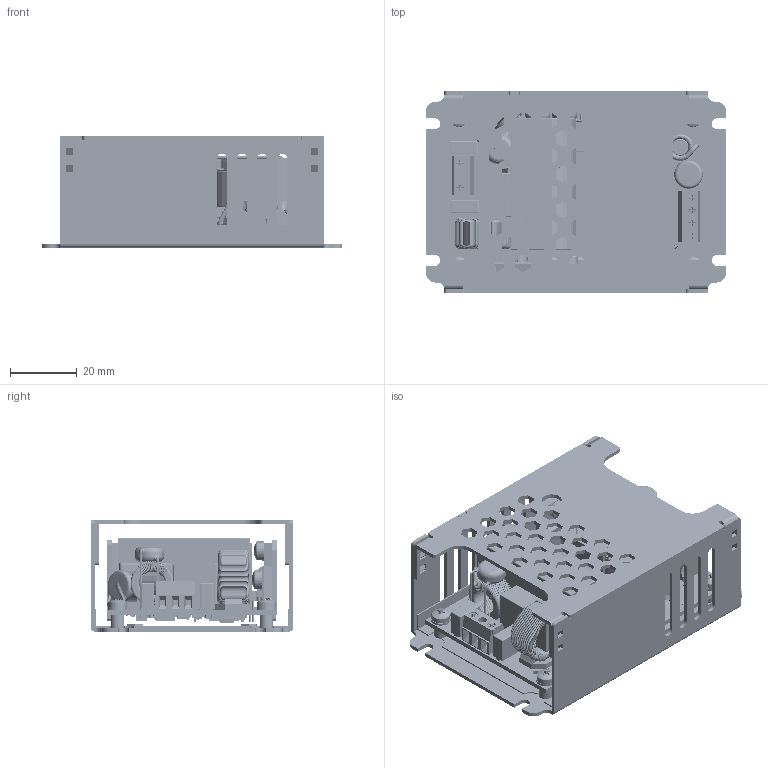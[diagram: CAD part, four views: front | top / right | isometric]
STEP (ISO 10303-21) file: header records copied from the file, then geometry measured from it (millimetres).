
FILE_DESCRIPTION (( 'STEP AP214' ), '1' );
FILE_NAME ('TPP 40(Single).STEP', '2020-07-20T01:51:59', ( 'user' ), ( '' ), 'SwSTEP 2.0', 'SolidWorks 2016', '' );
FILE_SCHEMA (( 'AUTOMOTIVE_DESIGN' ));
Length unit declared in the file: millimetre
Products named in the file (2): TPP 40(Single)
Bounding box: 89.74 x 60.45 x 33.27 mm (x, y, z)
Volume: 59282.4 mm3; surface area: 87612.8 mm2
Topology: 262 solids, 377 shells, 10429 faces, 24916 edges, 15127 vertices
Faces by surface type: plane 4299, cylinder 3465, torus 2249, bspline 264, sphere 82, cone 70
Full cylindrical faces by diameter (mm): 0.08 x1, 0.1 x15, 0.136 x1, 0.2 x4, 0.254 x2, 0.3 x4, 0.4 x4, 0.406 x64, 0.432 x2, 0.5 x5, 0.6 x37, 0.61 x8, 0.711 x4, 0.762 x8, 0.8 x7, 0.813 x40, 0.914 x8, 1.016 x34, 1.118 x6, 1.219 x4, 1.321 x11, 1.5 x4, 1.524 x32, 1.6 x6, 1.676 x12, 1.778 x42, 1.88 x2, 2.032 x18, 2.235 x8, 2.5 x16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
Entity records: 448170 total; most frequent: CARTESIAN_POINT 96981, ORIENTED_EDGE 48326, DIRECTION 47437, EDGE_CURVE 24163, AXIS2_PLACEMENT_3D 17759, VERTEX_POINT 15046, EDGE_LOOP 11921, VECTOR 11919
